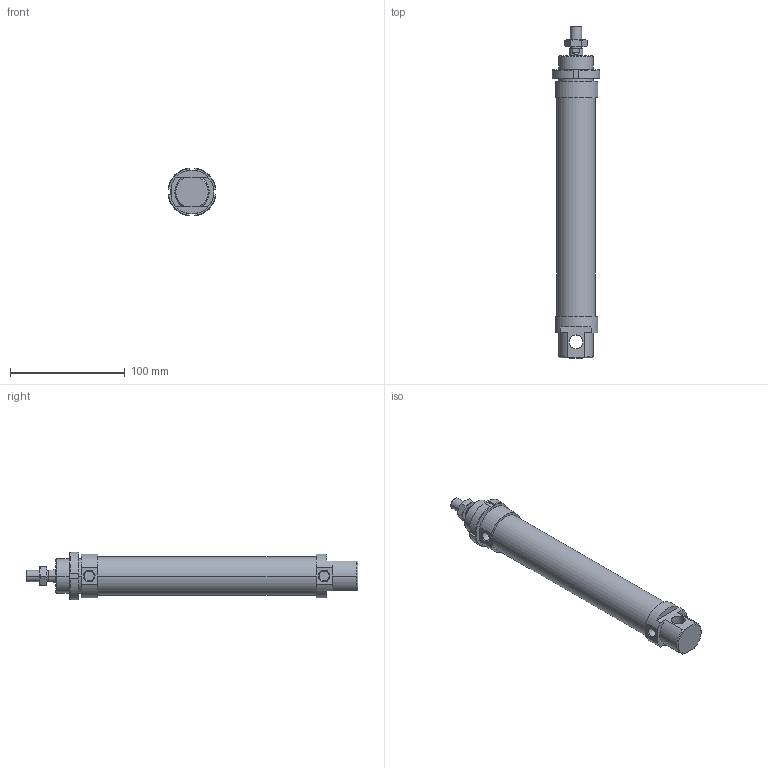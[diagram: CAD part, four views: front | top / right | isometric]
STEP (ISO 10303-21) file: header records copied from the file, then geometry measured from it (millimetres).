
FILE_DESCRIPTION((''),'2;1');
FILE_NAME('I:\DOC-EDP\Lib-3d\1200\CILINDRI\1280\1280_32_0150.stp','2003-04-07T19:04:39',('maffial1'),(''),'Autodesk Inventor (R) 6.0','Autodesk Inventor (R) 6.0','');
FILE_SCHEMA(('AUTOMOTIVE_DESIGN { 1 0 10303 214 1 1 1 1 }'));
Length unit declared in the file: millimetre
Products named in the file (5): 1280_32_0150; S1280_32_150; 1200_32_05; 1200_32_06; C1280_32_150
Assembly tree (4 placements, depth 2):
  1280_32_0150
    S1280_32_150
    1200_32_05
    1200_32_06
    C1280_32_150
Bounding box: 41.7 x 289 x 41.7 mm (x, y, z)
Volume: 234695.2 mm3; surface area: 50640.2 mm2
Topology: 4 solids, 4 shells, 122 faces, 286 edges, 180 vertices
Faces by surface type: plane 44, cone 32, cylinder 26, bspline 20
Entity records: 3831 total; most frequent: CARTESIAN_POINT 997, DIRECTION 582, ORIENTED_EDGE 572, EDGE_CURVE 286, AXIS2_PLACEMENT_3D 229, VERTEX_POINT 180, EDGE_LOOP 136, VECTOR 124
